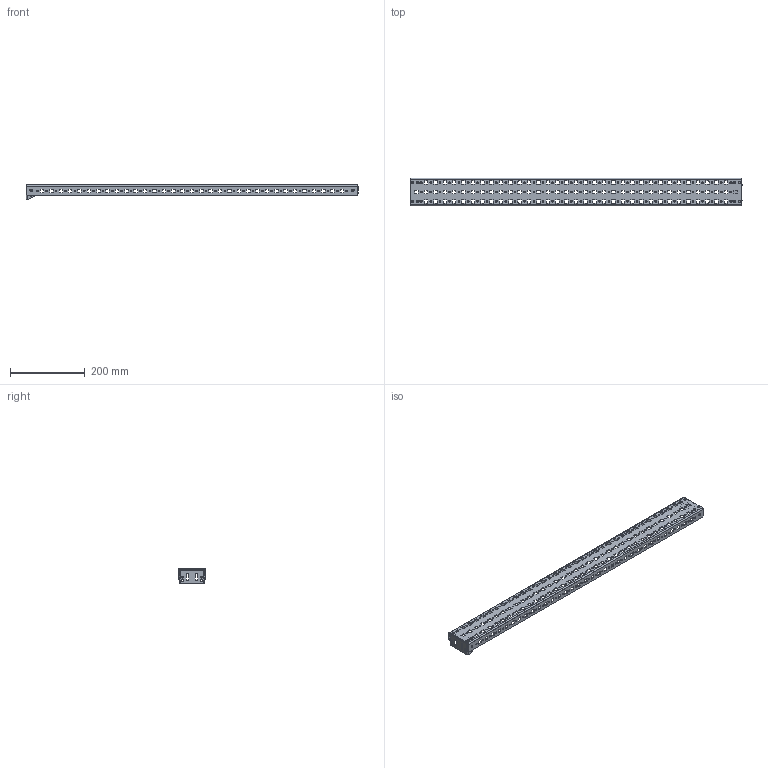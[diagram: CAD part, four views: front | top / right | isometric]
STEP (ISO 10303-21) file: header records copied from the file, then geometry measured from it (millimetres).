
FILE_DESCRIPTION(('STEP AP203'), '1');
FILE_NAME('MG 100.09 L Ðåéêà ìîíòàæíàÿ v2', '2021-05-18T13:28:40', ('UNSPECIFIED'), ('UNSPECIFIED'), 'ASCON STEP Converter 1.3', 'ASCON Math Kernel', '');
FILE_SCHEMA(('CONFIG_CONTROL_DESIGN'));
Length unit declared in the file: millimetre
Products named in the file (3): MG 100.09 L 01.001 Ðåéêà ìîíòàæíàÿ v2; MG 09 L 01.002 Êðîíøòåéí ðåéêè ìîíòàæíîé v2
Assembly tree (3 placements, depth 2):
  (unnamed)
    MG 100.09 L 01.001 Ðåéêà ìîíòàæíàÿ v2
    MG 09 L 01.002 Êðîíøòåéí ðåéêè ìîíòàæíîé v2  x2
Bounding box: 885.55 x 74.15 x 39 mm (x, y, z)
Volume: 200990.4 mm3; surface area: 225003.4 mm2
Topology: 3 solids, 3 shells, 1680 faces, 4942 edges, 3268 vertices
Faces by surface type: cylinder 914, plane 758, bspline 8
Full cylindrical faces by diameter (mm): 4.2 x194, 6 x4, 6.5 x12
Entity records: 68896 total; most frequent: CARTESIAN_POINT 10300, DIRECTION 9554, ORIENTED_EDGE 9160, EDGE_CURVE 4580, AXIS2_PLACEMENT_3D 3372, VERTEX_POINT 3168, LINE 2810, VECTOR 2810
